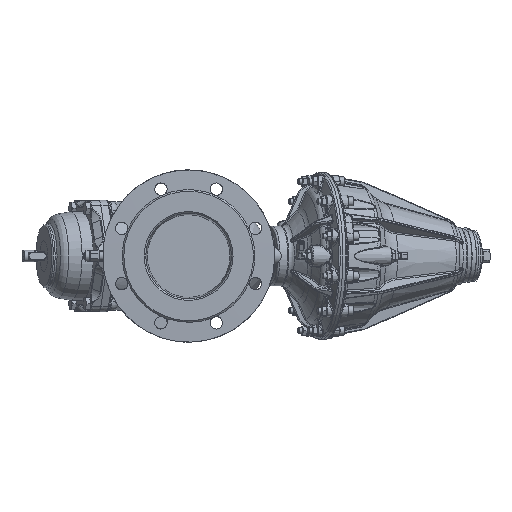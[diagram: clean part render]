
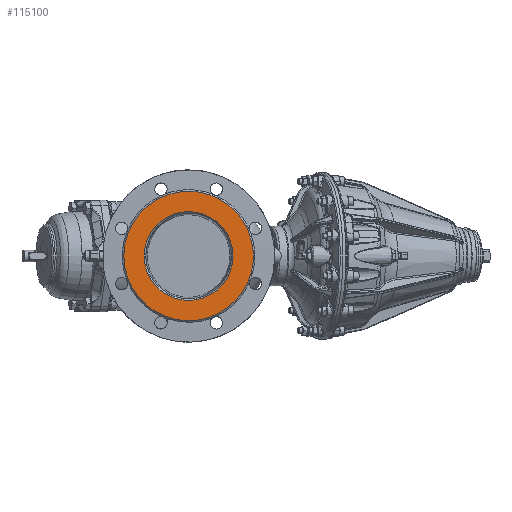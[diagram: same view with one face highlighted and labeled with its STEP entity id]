
A CAD part, left-side view. The second image highlights one B-rep face of the part: STEP entity #115100.
In plain terms, the highlighted planar face has unit normal (-1, 0, 0).
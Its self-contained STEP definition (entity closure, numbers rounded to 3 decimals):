
#4050 = VERTEX_POINT ( 'NONE', #4052 ) ;
#4052 = CARTESIAN_POINT ( 'NONE',  ( -187., 0., 94. ) ) ;
#4278 = CARTESIAN_POINT ( 'NONE',  ( -187., 0., 64.5 ) ) ;
#4282 = VERTEX_POINT ( 'NONE', #4278 ) ;
#20710 = AXIS2_PLACEMENT_3D ( 'NONE', #20797, #20795, #20792 ) ;
#20753 = CIRCLE ( 'NONE', #20710, 94. ) ;
#20792 = DIRECTION ( 'NONE',  ( 0., 0., 1. ) ) ;
#20795 = DIRECTION ( 'NONE',  ( -1., 0., 0. ) ) ;
#20797 = CARTESIAN_POINT ( 'NONE',  ( -187., 0., 0. ) ) ;
#21924 = CARTESIAN_POINT ( 'NONE',  ( -187., -62.5, 0. ) ) ;
#22002 = AXIS2_PLACEMENT_3D ( 'NONE', #21924, #22079, #22078 ) ;
#22005 = FACE_BOUND ( 'NONE', #114898, .T. ) ;
#22012 = PLANE ( 'NONE',  #22002 ) ;
#22033 = FACE_OUTER_BOUND ( 'NONE', #115112, .T. ) ;
#22078 = DIRECTION ( 'NONE',  ( 0., 0., 1. ) ) ;
#22079 = DIRECTION ( 'NONE',  ( -1., 0., 0. ) ) ;
#93329 = AXIS2_PLACEMENT_3D ( 'NONE', #93448, #93446, #93444 ) ;
#93444 = DIRECTION ( 'NONE',  ( 0., 0., 1. ) ) ;
#93446 = DIRECTION ( 'NONE',  ( 1., 0., 0. ) ) ;
#93448 = CARTESIAN_POINT ( 'NONE',  ( -187., 0., 0. ) ) ;
#93450 = CIRCLE ( 'NONE', #93329, 64.5 ) ;
#114898 = EDGE_LOOP ( 'NONE', ( #114986 ) ) ;
#114938 = EDGE_CURVE ( 'NONE', #4050, #4050, #20753, .T. ) ;
#114986 = ORIENTED_EDGE ( 'NONE', *, *, #137579, .T. ) ;
#115100 = ADVANCED_FACE ( 'NONE', ( #22005, #22033 ), #22012, .T. ) ;
#115112 = EDGE_LOOP ( 'NONE', ( #115114 ) ) ;
#115114 = ORIENTED_EDGE ( 'NONE', *, *, #114938, .T. ) ;
#137579 = EDGE_CURVE ( 'NONE', #4282, #4282, #93450, .T. ) ;
